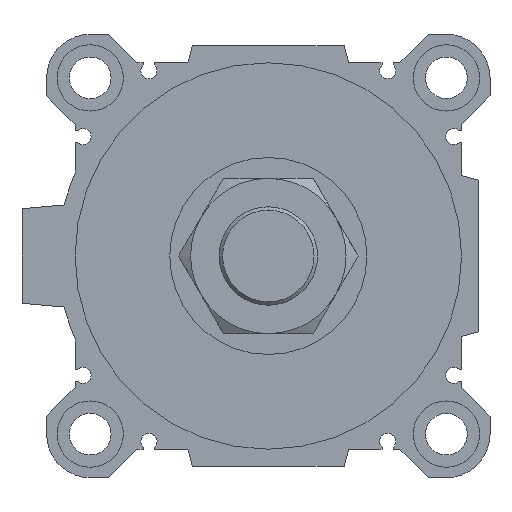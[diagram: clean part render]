
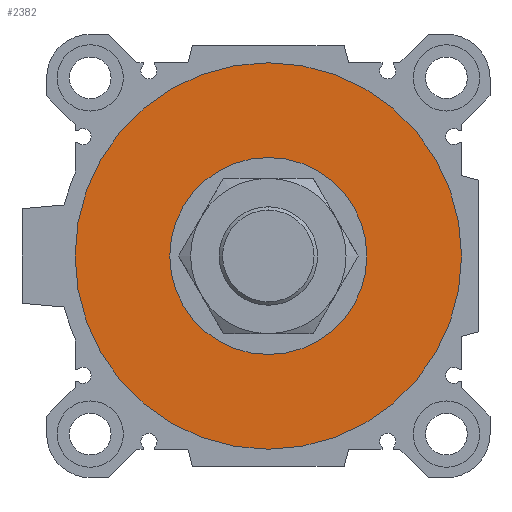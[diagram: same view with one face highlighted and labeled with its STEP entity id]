
A CAD part, left-side view. The second image highlights one B-rep face of the part: STEP entity #2382.
In plain terms, the highlighted planar face has unit normal (-1, 0, 0).
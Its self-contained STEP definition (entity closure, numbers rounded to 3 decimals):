
#403 = EDGE_CURVE ( 'NONE', #6549, #3829, #6245, .T. ) ;
#440 = VERTEX_POINT ( 'NONE', #5467 ) ;
#776 = CARTESIAN_POINT ( 'NONE',  ( 6.5, 0., 0. ) ) ;
#1145 = CARTESIAN_POINT ( 'NONE',  ( 6.5, 0., -26. ) ) ;
#1146 = DIRECTION ( 'NONE',  ( 0., 0., -1. ) ) ;
#1866 = CIRCLE ( 'NONE', #6575, 51. ) ;
#2368 = DIRECTION ( 'NONE',  ( 1., 0., 0. ) ) ;
#2382 = ADVANCED_FACE ( 'NONE', ( #5420, #3610 ), #7802, .F. ) ;
#2818 = EDGE_CURVE ( 'NONE', #440, #6159, #5525, .T. ) ;
#2834 = EDGE_CURVE ( 'NONE', #3829, #6549, #5911, .T. ) ;
#3090 = AXIS2_PLACEMENT_3D ( 'NONE', #5209, #6434, #7629 ) ;
#3610 = FACE_BOUND ( 'NONE', #4933, .T. ) ;
#3829 = VERTEX_POINT ( 'NONE', #1145 ) ;
#3919 = DIRECTION ( 'NONE',  ( 0., 0., -1. ) ) ;
#4053 = DIRECTION ( 'NONE',  ( 1., 0., 0. ) ) ;
#4055 = ORIENTED_EDGE ( 'NONE', *, *, #403, .T. ) ;
#4818 = DIRECTION ( 'NONE',  ( 0., 0., -1. ) ) ;
#4933 = EDGE_LOOP ( 'NONE', ( #4055, #5801 ) ) ;
#5008 = DIRECTION ( 'NONE',  ( 1., 0., 0. ) ) ;
#5014 = AXIS2_PLACEMENT_3D ( 'NONE', #6604, #4053, #1146 ) ;
#5121 = CARTESIAN_POINT ( 'NONE',  ( 6.5, 0., 0. ) ) ;
#5209 = CARTESIAN_POINT ( 'NONE',  ( 6.5, 0., 0. ) ) ;
#5420 = FACE_OUTER_BOUND ( 'NONE', #7027, .T. ) ;
#5445 = CARTESIAN_POINT ( 'NONE',  ( 6.5, 0., 26. ) ) ;
#5467 = CARTESIAN_POINT ( 'NONE',  ( 6.5, 0., -51. ) ) ;
#5525 = CIRCLE ( 'NONE', #5014, 51. ) ;
#5610 = ORIENTED_EDGE ( 'NONE', *, *, #7046, .F. ) ;
#5642 = CARTESIAN_POINT ( 'NONE',  ( 6.5, 0., 51. ) ) ;
#5801 = ORIENTED_EDGE ( 'NONE', *, *, #2834, .T. ) ;
#5911 = CIRCLE ( 'NONE', #6529, 26. ) ;
#6065 = ORIENTED_EDGE ( 'NONE', *, *, #2818, .F. ) ;
#6159 = VERTEX_POINT ( 'NONE', #5642 ) ;
#6245 = CIRCLE ( 'NONE', #7888, 26. ) ;
#6426 = DIRECTION ( 'NONE',  ( 1., 0., 0. ) ) ;
#6434 = DIRECTION ( 'NONE',  ( 1., 0., 0. ) ) ;
#6529 = AXIS2_PLACEMENT_3D ( 'NONE', #7829, #2368, #4818 ) ;
#6549 = VERTEX_POINT ( 'NONE', #5445 ) ;
#6575 = AXIS2_PLACEMENT_3D ( 'NONE', #5121, #6426, #7621 ) ;
#6604 = CARTESIAN_POINT ( 'NONE',  ( 6.5, 0., 0. ) ) ;
#7027 = EDGE_LOOP ( 'NONE', ( #5610, #6065 ) ) ;
#7046 = EDGE_CURVE ( 'NONE', #6159, #440, #1866, .T. ) ;
#7621 = DIRECTION ( 'NONE',  ( 0., 0., -1. ) ) ;
#7629 = DIRECTION ( 'NONE',  ( 0., 1., 0. ) ) ;
#7802 = PLANE ( 'NONE',  #3090 ) ;
#7829 = CARTESIAN_POINT ( 'NONE',  ( 6.5, 0., 0. ) ) ;
#7888 = AXIS2_PLACEMENT_3D ( 'NONE', #776, #5008, #3919 ) ;
